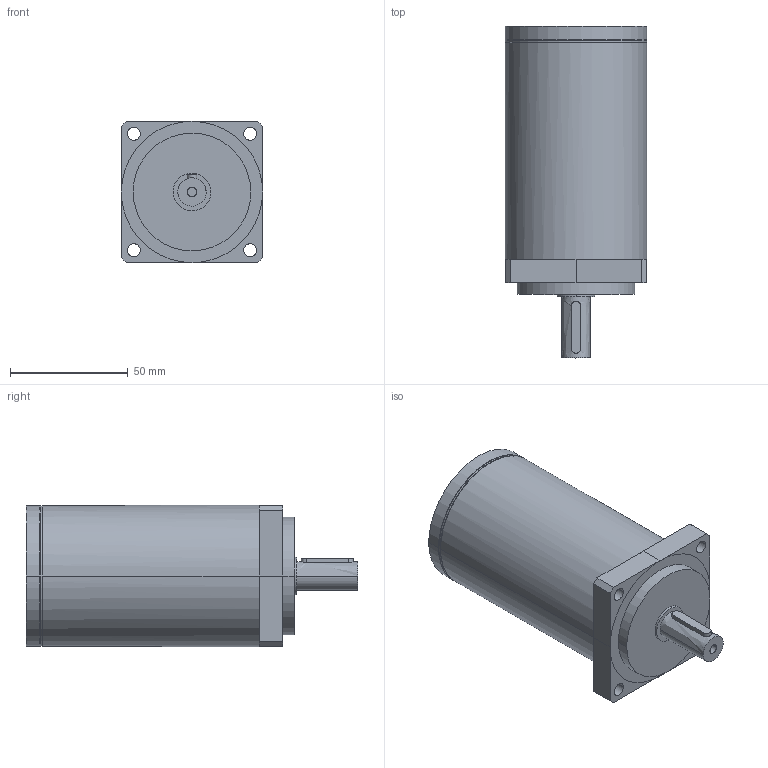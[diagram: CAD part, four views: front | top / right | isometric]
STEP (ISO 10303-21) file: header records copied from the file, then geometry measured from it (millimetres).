
FILE_DESCRIPTION(/* description */ (''),/* implementation_level */ '2;1');
FILE_NAME(/* name */ 'G2460S~2',/* time_stamp */ '2018-10-16T10:47:52+08:00',/* author */ (''),/* organization */ (''),/* preprocessor_version */ 'ST-DEVELOPER v15',/* originating_system */ '',/* authorisation */ '');
FILE_SCHEMA (('AUTOMOTIVE_DESIGN'));
Length unit declared in the file: millimetre
Products named in the file (1): Document
Bounding box: 60 x 141 x 60 mm (x, y, z)
Volume: 328711.9 mm3; surface area: 30793.6 mm2
Topology: 1 solids, 1 shells, 61 faces, 132 edges, 78 vertices
Faces by surface type: bspline 36, plane 25
Entity records: 2008 total; most frequent: CARTESIAN_POINT 1183, ORIENTED_EDGE 264, EDGE_CURVE 132, VERTEX_POINT 78, EDGE_LOOP 74, ADVANCED_FACE 61, FACE_OUTER_BOUND 61, B_SPLINE_CURVE_WITH_KNOTS 46
